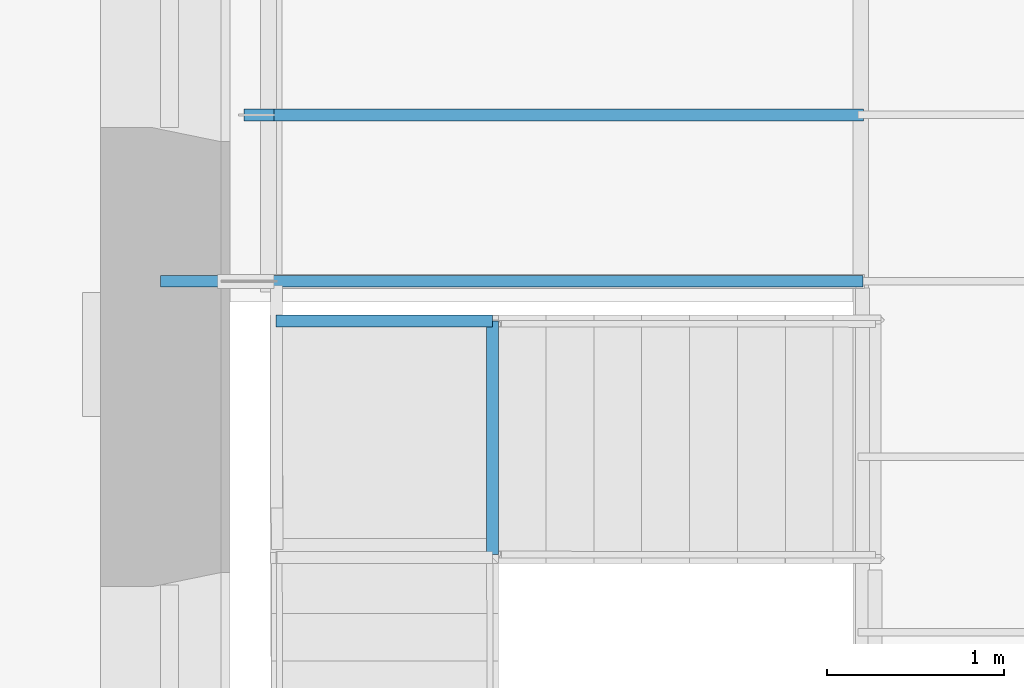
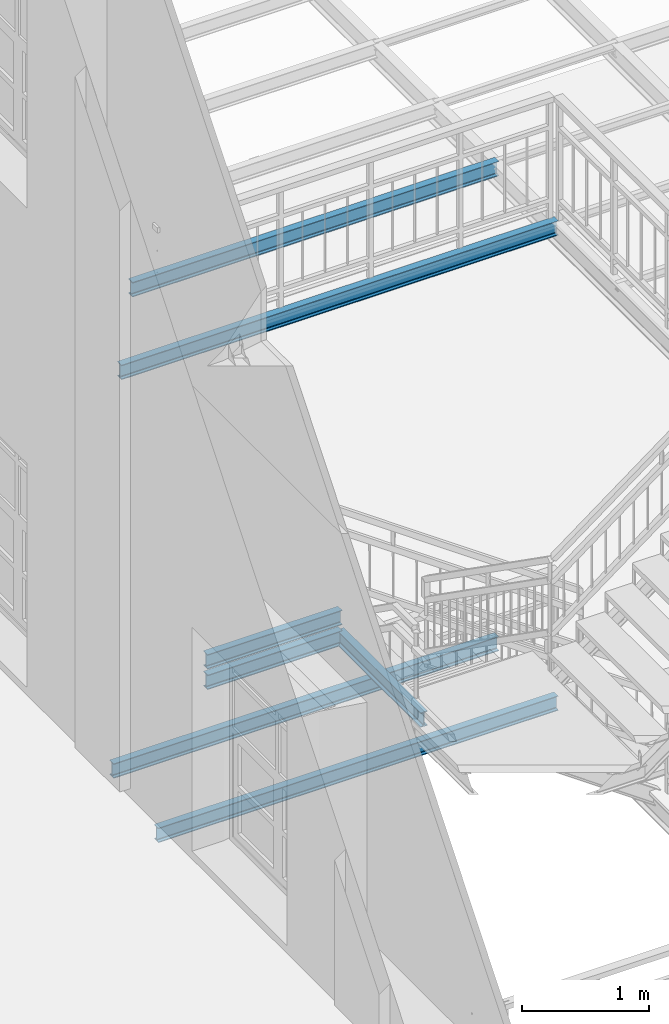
# One storey, part 11 of 33: 7 beams.
"""IFC2X3 building model written with IfcOpenShell, lengths in metres."""

from ifc_helpers import new_model, entity, si_unit, converted_unit, derived_unit, direction, frame, frame_2d, origin, place, context, subcontext, project, spatial, polyline, circle_curve, parameter, trimmed, segment, composite_curve, outline, extrude, material, type_object, element, save


model = new_model("IFC2X3")

# Units and contexts
model_context = context("Model", 3, precision=1e-05, world=origin(), true_north=direction((6.12303176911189e-17, 1.0)))
body_context = subcontext(model_context, "Body", "Model", "MODEL_VIEW")
ifc_project = project(units=[si_unit("LENGTHUNIT", "METRE"), si_unit("AREAUNIT", "SQUARE_METRE"), si_unit("VOLUMEUNIT", "CUBIC_METRE"), converted_unit("PLANEANGLEUNIT", "DEGREE", entity("IfcRatioMeasure", 0.0174532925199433), si_unit("PLANEANGLEUNIT", "RADIAN"), dimensions=[0, 0, 0, 0, 0, 0, 0]), si_unit("MASSUNIT", "GRAM", prefix="KILO"), derived_unit("MASSDENSITYUNIT", [(si_unit("MASSUNIT", "GRAM", prefix="KILO"), 1), (si_unit("LENGTHUNIT", "METRE"), -3)]), derived_unit("MOMENTOFINERTIAUNIT", [(si_unit("LENGTHUNIT", "METRE"), 4)]), si_unit("TIMEUNIT", "SECOND"), si_unit("FREQUENCYUNIT", "HERTZ"), si_unit("THERMODYNAMICTEMPERATUREUNIT", "DEGREE_CELSIUS"), derived_unit("THERMALTRANSMITTANCEUNIT", [(si_unit("MASSUNIT", "GRAM", prefix="KILO"), 1), (si_unit("THERMODYNAMICTEMPERATUREUNIT", "KELVIN"), -1), (si_unit("TIMEUNIT", "SECOND"), -3)]), derived_unit("VOLUMETRICFLOWRATEUNIT", [(si_unit("LENGTHUNIT", "METRE"), 3), (si_unit("TIMEUNIT", "SECOND"), -1)]), si_unit("ELECTRICCURRENTUNIT", "AMPERE"), si_unit("ELECTRICVOLTAGEUNIT", "VOLT"), si_unit("POWERUNIT", "WATT"), si_unit("FORCEUNIT", "NEWTON", prefix="KILO"), si_unit("ILLUMINANCEUNIT", "LUX"), si_unit("LUMINOUSFLUXUNIT", "LUMEN"), si_unit("LUMINOUSINTENSITYUNIT", "CANDELA"), derived_unit("USERDEFINED", [(si_unit("MASSUNIT", "GRAM", prefix="KILO"), -1), (si_unit("LENGTHUNIT", "METRE"), -2), (si_unit("TIMEUNIT", "SECOND"), 3), (si_unit("LUMINOUSFLUXUNIT", "LUMEN"), 1)]), derived_unit("LINEARVELOCITYUNIT", [(si_unit("LENGTHUNIT", "METRE"), 1), (si_unit("TIMEUNIT", "SECOND"), -1)]), si_unit("PRESSUREUNIT", "PASCAL"), derived_unit("USERDEFINED", [(si_unit("LENGTHUNIT", "METRE"), -2), (si_unit("MASSUNIT", "GRAM", prefix="KILO"), 1), (si_unit("TIMEUNIT", "SECOND"), -2)]), derived_unit("LINEARFORCEUNIT", [(si_unit("MASSUNIT", "GRAM", prefix="KILO"), 1), (si_unit("LENGTHUNIT", "METRE"), 1), (si_unit("TIMEUNIT", "SECOND"), -2), (si_unit("LENGTHUNIT", "METRE"), -1)]), derived_unit("PLANARFORCEUNIT", [(si_unit("MASSUNIT", "GRAM", prefix="KILO"), 1), (si_unit("LENGTHUNIT", "METRE"), 1), (si_unit("TIMEUNIT", "SECOND"), -2), (si_unit("LENGTHUNIT", "METRE"), -2)])], contexts=[model_context])

# Site, building, storey
site_placement = place(None, origin())
site = spatial("IfcSite", under=ifc_project, at=site_placement, Name="Superficie", CompositionType="ELEMENT")
building_placement = place(site_placement, origin())
building = spatial("IfcBuilding", under=site, at=building_placement, Name="Telegestiones", CompositionType="ELEMENT")
storey_placement = place(building_placement, frame((0.0, 0.0, 4.94)))
storey = spatial("IfcBuildingStorey", under=building, at=storey_placement, Name="Nivel 1_NPT", CompositionType="ELEMENT", Elevation=4.94)

# Beams
ifc_material = material(Name="Metal - Acero - 345 MPa")
beam_type = type_object("IfcBeamType", Name="IPN - Secciones en I con alas cónicas:IPN 140", PredefinedType="NOTDEFINED")
beam_1_placement = place(storey_placement, frame((6.02736546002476, 6.43560722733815, 0.0)))
element("IfcBeam", 1, at=beam_1_placement, inside=storey, type_object=beam_type, material=ifc_material, Name="IPN - Secciones en I con alas cónicas:IPN 140", ObjectType="IPN - Secciones en I con alas cónicas:IPN 140", context=body_context, shape_type="SweptSolid", body=[
    extrude(outline(composite_curve([segment(polyline([(0.0666671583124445, -0.033000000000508), (0.0699999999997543, -0.033000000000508)]), True, "CONTINUOUS"), segment(polyline([(0.0699999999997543, -0.0330000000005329), (0.0700000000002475, 0.0329999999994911)]), True, "CONTINUOUS"), segment(polyline([(0.070000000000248, 0.0329999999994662), (0.0666671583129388, 0.032999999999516)]), True, "CONTINUOUS"), segment(trimmed(circle_curve(frame_2d((0.0666671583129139, 0.0295999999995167), x_axis=(0.0, 1.0)), 0.00340000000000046), [parameter(0.0)], [parameter(82.0303896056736)], True, "PARAMETER"), True, "CONTINUOUS"), segment(polyline([(0.0632999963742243, 0.0300714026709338), (0.0601763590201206, 0.00775970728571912)]), True, "CONTINUOUS"), segment(trimmed(circle_curve(frame_2d((0.054531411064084, 0.00854999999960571), x_axis=(0.990341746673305, -0.138647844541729)), 0.00569999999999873), [parameter(277.969610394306)], [parameter(0.0)], True, "PARAMETER"), False, "CONTINUOUS"), segment(polyline([(0.0545314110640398, 0.0028499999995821), (-0.0545314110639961, 0.00285000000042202)]), True, "CONTINUOUS"), segment(trimmed(circle_curve(frame_2d((-0.0545314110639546, 0.00855000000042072), x_axis=(0.0, -1.0)), 0.00569999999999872), [parameter(277.969610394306)], [parameter(0.0)], True, "PARAMETER"), False, "CONTINUOUS"), segment(polyline([(-0.0601763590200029, 0.0077597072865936), (-0.0632999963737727, 0.0300714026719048)]), True, "CONTINUOUS"), segment(trimmed(circle_curve(frame_2d((-0.0666671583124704, 0.029600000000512), x_axis=(0.990341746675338, 0.138647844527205)), 0.00340000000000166), [parameter(0.0)], [parameter(82.0303896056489)], True, "PARAMETER"), True, "CONTINUOUS"), segment(polyline([(-0.0666671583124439, 0.0330000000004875), (-0.0699999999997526, 0.0330000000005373)]), True, "CONTINUOUS"), segment(polyline([(-0.0699999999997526, 0.0330000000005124), (-0.0700000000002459, -0.0329999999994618)]), True, "CONTINUOUS"), segment(polyline([(-0.0700000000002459, -0.0329999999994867), (-0.0666671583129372, -0.0329999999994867)]), True, "CONTINUOUS"), segment(trimmed(circle_curve(frame_2d((-0.0666671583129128, -0.0295999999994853), x_axis=(0.0, -1.0)), 0.00340000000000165), [parameter(0.0)], [parameter(82.0303896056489)], True, "PARAMETER"), True, "CONTINUOUS"), segment(polyline([(-0.0632999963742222, -0.0300714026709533), (-0.0601763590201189, -0.0077597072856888)]), True, "CONTINUOUS"), segment(trimmed(circle_curve(frame_2d((-0.0545314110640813, -0.00854999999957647), x_axis=(-0.990341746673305, 0.138647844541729)), 0.00569999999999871), [parameter(277.969610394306)], [parameter(0.0)], True, "PARAMETER"), False, "CONTINUOUS"), segment(polyline([(-0.0545314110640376, -0.00284999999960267), (0.0545314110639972, -0.00285000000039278)]), True, "CONTINUOUS"), segment(trimmed(circle_curve(frame_2d((0.0545314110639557, -0.00855000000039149), x_axis=(0.0, 1.0)), 0.0056999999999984), [parameter(277.969610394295)], [parameter(0.0)], True, "PARAMETER"), False, "CONTINUOUS"), segment(polyline([(0.060176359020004, -0.00775970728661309), (0.0632999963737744, -0.0300714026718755)]), True, "CONTINUOUS"), segment(trimmed(circle_curve(frame_2d((0.0666671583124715, -0.0296000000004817), x_axis=(-0.990341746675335, -0.138647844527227)), 0.00340000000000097), [parameter(0.0)], [parameter(82.0303896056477)], True, "PARAMETER"), True, "CONTINUOUS")], self_intersect=False)), frame((0.000223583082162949, 0.0, -0.100000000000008), z_axis=(1.0, 0.0, 0.0), x_axis=(0.0, 0.0, -1.0)), (0.0, 0.0, 1.0), 3.629),
])
beam_2_placement = place(storey_placement, frame((6.16481262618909, 7.37460722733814, 0.0)))
element("IfcBeam", 2, at=beam_2_placement, inside=storey, type_object=beam_type, material=ifc_material, Name="IPN - Secciones en I con alas cónicas:IPN 140", ObjectType="IPN - Secciones en I con alas cónicas:IPN 140", context=body_context, shape_type="SweptSolid", body=[
    extrude(outline(composite_curve([segment(polyline([(0.0666671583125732, -0.0330000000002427), (0.0699999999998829, -0.0330000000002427)]), True, "CONTINUOUS"), segment(polyline([(0.0699999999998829, -0.0330000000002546), (0.0700000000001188, 0.0329999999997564)]), True, "CONTINUOUS"), segment(polyline([(0.0700000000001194, 0.0329999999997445), (0.0666671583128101, 0.0329999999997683)]), True, "CONTINUOUS"), segment(trimmed(circle_curve(frame_2d((0.0666671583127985, 0.0295999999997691), x_axis=(0.0, 1.0)), 0.00340000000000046), [parameter(0.0)], [parameter(82.0303896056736)], True, "PARAMETER"), True, "CONTINUOUS"), segment(polyline([(0.0632999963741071, 0.030071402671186), (0.0601763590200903, 0.00775970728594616)]), True, "CONTINUOUS"), segment(trimmed(circle_curve(frame_2d((0.0545314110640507, 0.00854999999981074), x_axis=(0.990341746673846, -0.138647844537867)), 0.00569999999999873), [parameter(277.969610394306)], [parameter(0.0)], True, "PARAMETER"), False, "CONTINUOUS"), segment(polyline([(0.0545314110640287, 0.00284999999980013), (-0.0545314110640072, 0.00285000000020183)]), True, "CONTINUOUS"), segment(trimmed(circle_curve(frame_2d((-0.0545314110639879, 0.00855000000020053), x_axis=(0.0, -1.0)), 0.00569999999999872), [parameter(277.969610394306)], [parameter(0.0)], True, "PARAMETER"), False, "CONTINUOUS"), segment(polyline([(-0.0601763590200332, 0.00775970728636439), (-0.06329999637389, 0.0300714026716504)]), True, "CONTINUOUS"), segment(trimmed(circle_curve(frame_2d((-0.0666671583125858, 0.0296000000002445), x_axis=(0.990341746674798, 0.138647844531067)), 0.00340000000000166), [parameter(0.0)], [parameter(82.0303896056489)], True, "PARAMETER"), True, "CONTINUOUS"), segment(polyline([(-0.0666671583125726, 0.0330000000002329), (-0.0699999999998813, 0.0330000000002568)]), True, "CONTINUOUS"), segment(polyline([(-0.0699999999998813, 0.0330000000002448), (-0.0700000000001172, -0.0329999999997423)]), True, "CONTINUOUS"), segment(polyline([(-0.0700000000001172, -0.0329999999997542), (-0.0666671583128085, -0.0329999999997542)]), True, "CONTINUOUS"), segment(trimmed(circle_curve(frame_2d((-0.0666671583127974, -0.0295999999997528), x_axis=(0.0, -1.0)), 0.00340000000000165), [parameter(0.0)], [parameter(82.0303896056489)], True, "PARAMETER"), True, "CONTINUOUS"), segment(polyline([(-0.0632999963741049, -0.0300714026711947), (-0.0601763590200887, -0.007759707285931)]), True, "CONTINUOUS"), segment(trimmed(circle_curve(frame_2d((-0.054531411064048, -0.00854999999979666), x_axis=(-0.990341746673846, 0.138647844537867)), 0.00569999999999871), [parameter(277.969610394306)], [parameter(0.0)], True, "PARAMETER"), False, "CONTINUOUS"), segment(polyline([(-0.0545314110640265, -0.00284999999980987), (0.0545314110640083, -0.00285000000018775)]), True, "CONTINUOUS"), segment(trimmed(circle_curve(frame_2d((0.054531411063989, -0.00855000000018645), x_axis=(0.0, 1.0)), 0.0056999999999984), [parameter(277.969610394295)], [parameter(0.0)], True, "PARAMETER"), False, "CONTINUOUS"), segment(polyline([(0.0601763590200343, -0.00775970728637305), (0.0632999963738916, -0.0300714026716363)]), True, "CONTINUOUS"), segment(trimmed(circle_curve(frame_2d((0.0666671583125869, -0.0296000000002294), x_axis=(-0.990341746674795, -0.138647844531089)), 0.00340000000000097), [parameter(0.0)], [parameter(82.0303896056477)], True, "PARAMETER"), True, "CONTINUOUS")], self_intersect=False)), frame((0.0, 0.0, -0.100000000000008), z_axis=(1.0, 0.0, 0.0), x_axis=(0.0, 0.0, -1.0)), (0.0, 0.0, 1.0), 3.495),
])
beam_3_placement = place(storey_placement, frame((6.33481262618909, 6.43560722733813, 4.56)))
element("IfcBeam", 3, at=beam_3_placement, inside=storey, type_object=beam_type, material=ifc_material, Name="IPN - Secciones en I con alas cónicas:IPN 140", ObjectType="IPN - Secciones en I con alas cónicas:IPN 140", context=body_context, shape_type="SweptSolid", body=[
    extrude(outline(composite_curve([segment(polyline([(0.0666671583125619, -0.0330000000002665), (0.0699999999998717, -0.0330000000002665)]), True, "CONTINUOUS"), segment(polyline([(0.0699999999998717, -0.0330000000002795), (0.070000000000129, 0.0329999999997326)]), True, "CONTINUOUS"), segment(polyline([(0.0700000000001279, 0.0329999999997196), (0.0666671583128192, 0.0329999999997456)]), True, "CONTINUOUS"), segment(trimmed(circle_curve(frame_2d((0.0666671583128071, 0.0295999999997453), x_axis=(0.0, 1.0)), 0.00340000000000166), [parameter(0.0)], [parameter(82.0303896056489)], True, "PARAMETER"), True, "CONTINUOUS"), segment(polyline([(0.0632999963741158, 0.0300714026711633), (0.0601763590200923, 0.00775970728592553)]), True, "CONTINUOUS"), segment(trimmed(circle_curve(frame_2d((0.0545314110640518, 0.00854999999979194), x_axis=(0.9903417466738, -0.138647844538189)), 0.00569999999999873), [parameter(277.969610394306)], [parameter(0.0)], True, "PARAMETER"), False, "CONTINUOUS"), segment(polyline([(0.0545314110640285, 0.00284999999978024), (-0.0545314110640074, 0.00285000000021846)]), True, "CONTINUOUS"), segment(trimmed(circle_curve(frame_2d((-0.0545314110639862, 0.00855000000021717), x_axis=(0.0, -1.0)), 0.00569999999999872), [parameter(277.969610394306)], [parameter(0.0)], True, "PARAMETER"), False, "CONTINUOUS"), segment(polyline([(-0.0601763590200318, 0.00775970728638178), (-0.0632999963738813, 0.0300714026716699)]), True, "CONTINUOUS"), segment(trimmed(circle_curve(frame_2d((-0.0666671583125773, 0.0296000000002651), x_axis=(0.990341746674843, 0.138647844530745)), 0.00340000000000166), [parameter(0.0)], [parameter(82.0303896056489)], True, "PARAMETER"), True, "CONTINUOUS"), segment(polyline([(-0.066667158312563, 0.0330000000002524), (-0.0699999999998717, 0.0330000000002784)]), True, "CONTINUOUS"), segment(polyline([(-0.0699999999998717, 0.0330000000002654), (-0.070000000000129, -0.0329999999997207)]), True, "CONTINUOUS"), segment(polyline([(-0.070000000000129, -0.0329999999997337), (-0.0666671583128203, -0.0329999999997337)]), True, "CONTINUOUS"), segment(trimmed(circle_curve(frame_2d((-0.0666671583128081, -0.0295999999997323), x_axis=(0.0, -1.0)), 0.00340000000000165), [parameter(0.0)], [parameter(82.0303896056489)], True, "PARAMETER"), True, "CONTINUOUS"), segment(polyline([(-0.0632999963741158, -0.0300714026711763), (-0.0601763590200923, -0.00775970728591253)]), True, "CONTINUOUS"), segment(trimmed(circle_curve(frame_2d((-0.0545314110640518, -0.00854999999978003), x_axis=(-0.9903417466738, 0.138647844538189)), 0.00569999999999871), [parameter(277.969610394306)], [parameter(0.0)], True, "PARAMETER"), False, "CONTINUOUS"), segment(polyline([(-0.0545314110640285, -0.00284999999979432), (0.0545314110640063, -0.00285000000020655)]), True, "CONTINUOUS"), segment(trimmed(circle_curve(frame_2d((0.0545314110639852, -0.00855000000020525), x_axis=(0.0, 1.0)), 0.0056999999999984), [parameter(277.969610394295)], [parameter(0.0)], True, "PARAMETER"), False, "CONTINUOUS"), segment(polyline([(0.0601763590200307, -0.00775970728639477), (0.0632999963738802, -0.030071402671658)]), True, "CONTINUOUS"), segment(trimmed(circle_curve(frame_2d((0.0666671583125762, -0.0296000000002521), x_axis=(-0.990341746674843, -0.138647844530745)), 0.00340000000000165), [parameter(0.0)], [parameter(82.0303896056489)], True, "PARAMETER"), True, "CONTINUOUS")], self_intersect=False)), frame((-0.641000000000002, 0.0, -0.100000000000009), z_axis=(1.0, 0.0, 0.0), x_axis=(0.0, 0.0, -1.0)), (0.0, 0.0, 1.0), 3.963),
])
beam_4_placement = place(storey_placement, frame((6.33481262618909, 7.37460722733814, 4.56)))
element("IfcBeam", 4, at=beam_4_placement, inside=storey, type_object=beam_type, material=ifc_material, Name="IPN - Secciones en I con alas cónicas:IPN 140", ObjectType="IPN - Secciones en I con alas cónicas:IPN 140", context=body_context, shape_type="SweptSolid", body=[
    extrude(outline(composite_curve([segment(polyline([(0.0666671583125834, -0.033000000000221), (0.0699999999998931, -0.033000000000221)]), True, "CONTINUOUS"), segment(polyline([(0.0699999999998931, -0.0330000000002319), (0.0700000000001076, 0.0329999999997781)]), True, "CONTINUOUS"), segment(polyline([(0.0700000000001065, 0.0329999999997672), (0.0666671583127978, 0.0329999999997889)]), True, "CONTINUOUS"), segment(trimmed(circle_curve(frame_2d((0.0666671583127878, 0.0295999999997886), x_axis=(0.0, 1.0)), 0.00340000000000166), [parameter(0.0)], [parameter(82.0303896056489)], True, "PARAMETER"), True, "CONTINUOUS"), segment(polyline([(0.0632999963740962, 0.0300714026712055), (0.0601763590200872, 0.00775970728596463)]), True, "CONTINUOUS"), segment(trimmed(circle_curve(frame_2d((0.0545314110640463, 0.00854999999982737), x_axis=(0.990341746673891, -0.138647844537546)), 0.00569999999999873), [parameter(277.969610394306)], [parameter(0.0)], True, "PARAMETER"), False, "CONTINUOUS"), segment(polyline([(0.0545314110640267, 0.00284999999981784), (-0.0545314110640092, 0.00285000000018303)]), True, "CONTINUOUS"), segment(trimmed(circle_curve(frame_2d((-0.0545314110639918, 0.00855000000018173), x_axis=(0.0, -1.0)), 0.00569999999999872), [parameter(277.969610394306)], [parameter(0.0)], True, "PARAMETER"), False, "CONTINUOUS"), segment(polyline([(-0.0601763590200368, 0.00775970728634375), (-0.0632999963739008, 0.0300714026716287)]), True, "CONTINUOUS"), segment(trimmed(circle_curve(frame_2d((-0.0666671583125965, 0.0296000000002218), x_axis=(0.990341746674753, 0.138647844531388)), 0.00340000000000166), [parameter(0.0)], [parameter(82.0303896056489)], True, "PARAMETER"), True, "CONTINUOUS"), segment(polyline([(-0.0666671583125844, 0.0330000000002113), (-0.0699999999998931, 0.0330000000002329)]), True, "CONTINUOUS"), segment(polyline([(-0.0699999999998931, 0.0330000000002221), (-0.0700000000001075, -0.0329999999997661)]), True, "CONTINUOUS"), segment(polyline([(-0.0700000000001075, -0.032999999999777), (-0.0666671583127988, -0.032999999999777)]), True, "CONTINUOUS"), segment(trimmed(circle_curve(frame_2d((-0.0666671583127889, -0.0295999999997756), x_axis=(0.0, -1.0)), 0.00340000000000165), [parameter(0.0)], [parameter(82.0303896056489)], True, "PARAMETER"), True, "CONTINUOUS"), segment(polyline([(-0.0632999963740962, -0.0300714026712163), (-0.0601763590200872, -0.00775970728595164)]), True, "CONTINUOUS"), segment(trimmed(circle_curve(frame_2d((-0.0545314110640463, -0.00854999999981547), x_axis=(-0.990341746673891, 0.138647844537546)), 0.00569999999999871), [parameter(277.969610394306)], [parameter(0.0)], True, "PARAMETER"), False, "CONTINUOUS"), segment(polyline([(-0.0545314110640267, -0.00284999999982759), (0.0545314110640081, -0.00285000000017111)]), True, "CONTINUOUS"), segment(trimmed(circle_curve(frame_2d((0.0545314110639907, -0.00855000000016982), x_axis=(0.0, 1.0)), 0.0056999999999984), [parameter(277.969610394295)], [parameter(0.0)], True, "PARAMETER"), False, "CONTINUOUS"), segment(polyline([(0.0601763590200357, -0.00775970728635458), (0.0632999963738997, -0.0300714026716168)]), True, "CONTINUOUS"), segment(trimmed(circle_curve(frame_2d((0.0666671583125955, -0.0296000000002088), x_axis=(-0.990341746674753, -0.138647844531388)), 0.00340000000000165), [parameter(0.0)], [parameter(82.0303896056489)], True, "PARAMETER"), True, "CONTINUOUS")], self_intersect=False)), frame((0.0, 0.0, -0.100000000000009), z_axis=(1.0, 0.0, 0.0), x_axis=(0.0, 0.0, -1.0)), (0.0, 0.0, 1.0), 3.325),
])
beam_5_placement = place(storey_placement, frame((7.5665983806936, 6.21161177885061, 1.463162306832), z_axis=(0.0, 0.0, 1.0), x_axis=(0.0, -1.0, 0.0)))
element("IfcBeam", 5, at=beam_5_placement, inside=storey, type_object=beam_type, material=ifc_material, Name="IPN - Secciones en I con alas cónicas:IPN 140", ObjectType="IPN - Secciones en I con alas cónicas:IPN 140", context=body_context, shape_type="SweptSolid", body=[
    extrude(outline(composite_curve([segment(polyline([(0.0666671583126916, -0.0330000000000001), (0.0699999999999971, -0.0330000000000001)]), True, "CONTINUOUS"), segment(polyline([(0.0700000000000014, -0.0330000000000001), (0.0699999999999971, 0.032999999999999)]), True, "CONTINUOUS"), segment(polyline([(0.0700000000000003, 0.032999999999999), (0.0666671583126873, 0.032999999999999)]), True, "CONTINUOUS"), segment(trimmed(circle_curve(frame_2d((0.0666671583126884, 0.0295999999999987), x_axis=(0.0, 1.0)), 0.00340000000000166), [parameter(0.0)], [parameter(82.0303896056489)], True, "PARAMETER"), True, "CONTINUOUS"), segment(polyline([(0.0632999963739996, 0.0300714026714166), (0.0601763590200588, 0.00775970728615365)]), True, "CONTINUOUS"), segment(trimmed(circle_curve(frame_2d((0.0545314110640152, 0.00854999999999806), x_axis=(0.990341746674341, -0.138647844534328)), 0.00569999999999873), [parameter(277.969610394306)], [parameter(0.0)], True, "PARAMETER"), False, "CONTINUOUS"), segment(polyline([(0.0545314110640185, 0.00284999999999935), (-0.0545314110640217, 0.00284999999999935)]), True, "CONTINUOUS"), segment(trimmed(circle_curve(frame_2d((-0.0545314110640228, 0.00854999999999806), x_axis=(0.0, -1.0)), 0.00569999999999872), [parameter(277.969610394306)], [parameter(0.0)], True, "PARAMETER"), False, "CONTINUOUS"), segment(polyline([(-0.060176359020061, 0.00775970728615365), (-0.0632999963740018, 0.0300714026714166)]), True, "CONTINUOUS"), segment(trimmed(circle_curve(frame_2d((-0.066667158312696, 0.0295999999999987), x_axis=(0.990341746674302, 0.138647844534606)), 0.00340000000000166), [parameter(0.0)], [parameter(82.0303896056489)], True, "PARAMETER"), True, "CONTINUOUS"), segment(polyline([(-0.0666671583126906, 0.032999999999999), (-0.0700000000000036, 0.032999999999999)]), True, "CONTINUOUS"), segment(polyline([(-0.0699999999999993, 0.032999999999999), (-0.0700000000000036, -0.0330000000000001)]), True, "CONTINUOUS"), segment(polyline([(-0.0699999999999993, -0.0330000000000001), (-0.0666671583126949, -0.0330000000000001)]), True, "CONTINUOUS"), segment(trimmed(circle_curve(frame_2d((-0.066667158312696, -0.0295999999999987), x_axis=(0.0, -1.0)), 0.00340000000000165), [parameter(0.0)], [parameter(82.0303896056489)], True, "PARAMETER"), True, "CONTINUOUS"), segment(polyline([(-0.0632999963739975, -0.0300714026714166), (-0.0601763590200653, -0.00775970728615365)]), True, "CONTINUOUS"), segment(trimmed(circle_curve(frame_2d((-0.0545314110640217, -0.00854999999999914), x_axis=(-0.990341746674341, 0.138647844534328)), 0.00569999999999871), [parameter(277.969610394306)], [parameter(0.0)], True, "PARAMETER"), False, "CONTINUOUS"), segment(polyline([(-0.0545314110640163, -0.00285000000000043), (0.0545314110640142, -0.00285000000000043)]), True, "CONTINUOUS"), segment(trimmed(circle_curve(frame_2d((0.0545314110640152, -0.00854999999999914), x_axis=(0.0, 1.0)), 0.0056999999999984), [parameter(277.969610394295)], [parameter(0.0)], True, "PARAMETER"), False, "CONTINUOUS"), segment(polyline([(0.060176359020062, -0.00775970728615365), (0.0632999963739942, -0.0300714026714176)]), True, "CONTINUOUS"), segment(trimmed(circle_curve(frame_2d((0.0666671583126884, -0.0295999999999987), x_axis=(-0.990341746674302, -0.138647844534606)), 0.00340000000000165), [parameter(0.0)], [parameter(82.0303896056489)], True, "PARAMETER"), True, "CONTINUOUS")], self_intersect=False)), frame((0.000148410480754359, 0.0, -0.0700000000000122), z_axis=(1.0, 0.0, 0.0), x_axis=(0.0, 0.0, -1.0)), (0.0, 0.0, 1.0), 1.318),
])
beam_6_placement = place(storey_placement, frame((6.34781262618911, 6.21161177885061, 1.46316260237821)))
element("IfcBeam", 6, at=beam_6_placement, inside=storey, type_object=beam_type, material=ifc_material, Name="IPN - Secciones en I con alas cónicas:IPN 140", ObjectType="IPN - Secciones en I con alas cónicas:IPN 140", context=body_context, shape_type="SweptSolid", body=[
    extrude(outline(composite_curve([segment(polyline([(-0.0699999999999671, -0.0330000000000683), (-0.0666671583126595, -0.0330000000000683)]), True, "CONTINUOUS"), segment(trimmed(circle_curve(frame_2d((-0.0666671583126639, -0.0296000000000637), x_axis=(0.0, -1.0)), 0.00340000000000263), [parameter(0.0)], [parameter(82.0303896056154)], True, "PARAMETER"), True, "CONTINUOUS"), segment(polyline([(-0.0632999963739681, -0.0300714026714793), (-0.0601763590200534, -0.00775970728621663)]), True, "CONTINUOUS"), segment(trimmed(circle_curve(frame_2d((-0.0545314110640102, -0.00855000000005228), x_axis=(-0.990341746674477, 0.138647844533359)), 0.00569999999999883), [parameter(277.969610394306)], [parameter(0.0)], True, "PARAMETER"), False, "CONTINUOUS"), segment(polyline([(-0.0545314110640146, -0.00285000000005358), (0.0545314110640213, -0.00284999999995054)]), True, "CONTINUOUS"), segment(trimmed(circle_curve(frame_2d((0.0545314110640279, -0.00854999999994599), x_axis=(0.0, 1.0)), 0.00569999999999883), [parameter(277.969610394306)], [parameter(0.0)], True, "PARAMETER"), False, "CONTINUOUS"), segment(polyline([(0.0601763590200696, -0.00775970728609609), (0.0632999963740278, -0.0300714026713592)]), True, "CONTINUOUS"), segment(trimmed(circle_curve(frame_2d((0.0666671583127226, -0.0295999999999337), x_axis=(-0.99034174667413, -0.138647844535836)), 0.00340000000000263), [parameter(0.0)], [parameter(82.0303896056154)], True, "PARAMETER"), True, "CONTINUOUS"), segment(polyline([(0.0666671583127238, -0.0329999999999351), (0.0700000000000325, -0.0329999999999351)]), True, "CONTINUOUS"), segment(polyline([(0.0700000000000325, -0.0329999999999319), (0.0699999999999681, 0.033000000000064)]), True, "CONTINUOUS"), segment(polyline([(0.0699999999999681, 0.0330000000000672), (0.0666671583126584, 0.0330000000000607)]), True, "CONTINUOUS"), segment(trimmed(circle_curve(frame_2d((0.0666671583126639, 0.0296000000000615), x_axis=(0.0, 1.0)), 0.00340000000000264), [parameter(0.0)], [parameter(82.0303896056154)], True, "PARAMETER"), True, "CONTINUOUS"), segment(polyline([(0.0632999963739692, 0.0300714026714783), (0.0601763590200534, 0.00775970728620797)]), True, "CONTINUOUS"), segment(trimmed(circle_curve(frame_2d((0.0545314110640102, 0.0085500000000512), x_axis=(0.990341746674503, -0.138647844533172)), 0.00569999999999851), [parameter(277.969610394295)], [parameter(0.0)], True, "PARAMETER"), False, "CONTINUOUS"), segment(polyline([(0.0545314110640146, 0.0028500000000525), (-0.0545314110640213, 0.00284999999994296)]), True, "CONTINUOUS"), segment(trimmed(circle_curve(frame_2d((-0.0545314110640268, 0.00854999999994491), x_axis=(0.0, -1.0)), 0.00569999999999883), [parameter(277.969610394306)], [parameter(0.0)], True, "PARAMETER"), False, "CONTINUOUS"), segment(polyline([(-0.0601763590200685, 0.00775970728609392), (-0.0632999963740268, 0.0300714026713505)]), True, "CONTINUOUS"), segment(trimmed(circle_curve(frame_2d((-0.0666671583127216, 0.0295999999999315), x_axis=(0.99034174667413, 0.138647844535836)), 0.00340000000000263), [parameter(0.0)], [parameter(82.0303896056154)], True, "PARAMETER"), True, "CONTINUOUS"), segment(polyline([(-0.0666671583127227, 0.032999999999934), (-0.0700000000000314, 0.0329999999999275)]), True, "CONTINUOUS"), segment(polyline([(-0.0700000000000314, 0.0329999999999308), (-0.0699999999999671, -0.0330000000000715)]), True, "CONTINUOUS")], self_intersect=False)), frame((-0.00245712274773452, 0.0, -0.0700000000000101), z_axis=(1.0, 0.0, 0.0), x_axis=(0.0, 0.0, -1.0)), (0.0, 0.0, 1.0), 1.22085),
])
beam_7_placement = place(storey_placement, frame((6.34781262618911, 6.21161177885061, 1.65964999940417)))
element("IfcBeam", 7, at=beam_7_placement, inside=storey, type_object=beam_type, material=ifc_material, Name="IPN - Secciones en I con alas cónicas:IPN 140", ObjectType="IPN - Secciones en I con alas cónicas:IPN 140", context=body_context, shape_type="SweptSolid", body=[
    extrude(outline(composite_curve([segment(polyline([(-0.069999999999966, -0.0330000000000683), (-0.0666671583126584, -0.0330000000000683)]), True, "CONTINUOUS"), segment(trimmed(circle_curve(frame_2d((-0.0666671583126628, -0.0296000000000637), x_axis=(0.0, -1.0)), 0.00340000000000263), [parameter(0.0)], [parameter(82.0303896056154)], True, "PARAMETER"), True, "CONTINUOUS"), segment(polyline([(-0.0632999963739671, -0.0300714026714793), (-0.0601763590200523, -0.00775970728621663)]), True, "CONTINUOUS"), segment(trimmed(circle_curve(frame_2d((-0.0545314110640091, -0.00855000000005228), x_axis=(-0.990341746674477, 0.138647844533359)), 0.00569999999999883), [parameter(277.969610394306)], [parameter(0.0)], True, "PARAMETER"), False, "CONTINUOUS"), segment(polyline([(-0.0545314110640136, -0.00285000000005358), (0.0545314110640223, -0.00284999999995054)]), True, "CONTINUOUS"), segment(trimmed(circle_curve(frame_2d((0.054531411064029, -0.00854999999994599), x_axis=(0.0, 1.0)), 0.00569999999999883), [parameter(277.969610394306)], [parameter(0.0)], True, "PARAMETER"), False, "CONTINUOUS"), segment(polyline([(0.0601763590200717, -0.00775970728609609), (0.06329999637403, -0.0300714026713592)]), True, "CONTINUOUS"), segment(trimmed(circle_curve(frame_2d((0.0666671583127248, -0.0295999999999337), x_axis=(-0.99034174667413, -0.138647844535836)), 0.00340000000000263), [parameter(0.0)], [parameter(82.0303896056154)], True, "PARAMETER"), True, "CONTINUOUS"), segment(polyline([(0.066667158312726, -0.0329999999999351), (0.0700000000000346, -0.0329999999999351)]), True, "CONTINUOUS"), segment(polyline([(0.0700000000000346, -0.0329999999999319), (0.0699999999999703, 0.033000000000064)]), True, "CONTINUOUS"), segment(polyline([(0.0699999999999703, 0.0330000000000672), (0.0666671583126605, 0.0330000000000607)]), True, "CONTINUOUS"), segment(trimmed(circle_curve(frame_2d((0.066667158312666, 0.0296000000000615), x_axis=(0.0, 1.0)), 0.00340000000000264), [parameter(0.0)], [parameter(82.0303896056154)], True, "PARAMETER"), True, "CONTINUOUS"), segment(polyline([(0.0632999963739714, 0.0300714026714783), (0.0601763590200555, 0.00775970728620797)]), True, "CONTINUOUS"), segment(trimmed(circle_curve(frame_2d((0.0545314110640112, 0.0085500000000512), x_axis=(0.990341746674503, -0.138647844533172)), 0.00569999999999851), [parameter(277.969610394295)], [parameter(0.0)], True, "PARAMETER"), False, "CONTINUOUS"), segment(polyline([(0.0545314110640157, 0.0028500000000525), (-0.0545314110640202, 0.00284999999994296)]), True, "CONTINUOUS"), segment(trimmed(circle_curve(frame_2d((-0.0545314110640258, 0.00854999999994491), x_axis=(0.0, -1.0)), 0.00569999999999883), [parameter(277.969610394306)], [parameter(0.0)], True, "PARAMETER"), False, "CONTINUOUS"), segment(polyline([(-0.0601763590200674, 0.00775970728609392), (-0.0632999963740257, 0.0300714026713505)]), True, "CONTINUOUS"), segment(trimmed(circle_curve(frame_2d((-0.0666671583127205, 0.0295999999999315), x_axis=(0.99034174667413, 0.138647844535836)), 0.00340000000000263), [parameter(0.0)], [parameter(82.0303896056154)], True, "PARAMETER"), True, "CONTINUOUS"), segment(polyline([(-0.0666671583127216, 0.032999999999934), (-0.0700000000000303, 0.0329999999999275)]), True, "CONTINUOUS"), segment(polyline([(-0.0700000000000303, 0.0329999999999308), (-0.069999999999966, -0.0330000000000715)]), True, "CONTINUOUS")], self_intersect=False)), frame((-0.00245712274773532, 0.0, -0.0700000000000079), z_axis=(1.0, 0.0, 0.0), x_axis=(0.0, 0.0, -1.0)), (0.0, 0.0, 1.0), 1.22085),
])

save(model, "model.ifc")
